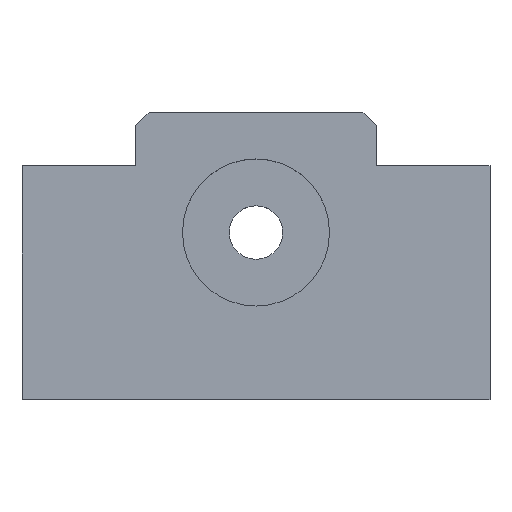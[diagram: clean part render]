
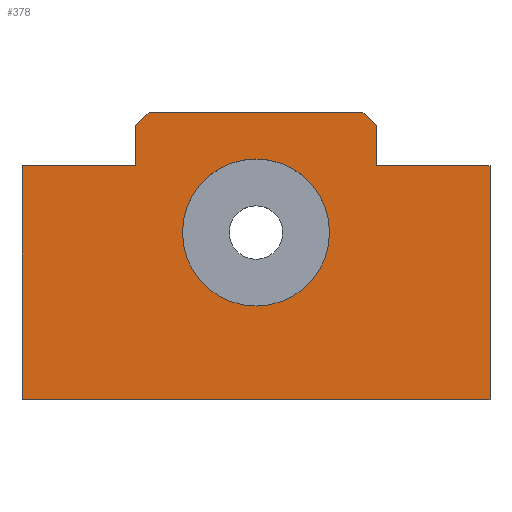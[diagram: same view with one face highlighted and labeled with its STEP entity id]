
A CAD part, top view. The second image highlights one B-rep face of the part: STEP entity #378.
In plain terms, the highlighted planar face has unit normal (0, 0, 1).
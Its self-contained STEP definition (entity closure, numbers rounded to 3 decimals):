
#42=FACE_BOUND($,#113,.T.);
#48=CIRCLE($,#396,11.);
#73=FACE_OUTER_BOUND($,#112,.T.);
#112=EDGE_LOOP($,(#329,#330,#331,#332,#333,#334,#335,#336,#337,#338));
#113=EDGE_LOOP($,(#339));
#114=LINE($,#529,#144);
#120=LINE($,#540,#150);
#129=LINE($,#562,#159);
#132=LINE($,#567,#162);
#135=LINE($,#610,#165);
#137=LINE($,#613,#167);
#138=LINE($,#615,#168);
#139=LINE($,#618,#169);
#141=LINE($,#622,#171);
#143=LINE($,#625,#173);
#144=VECTOR($,#423,2.828);
#150=VECTOR($,#431,6.);
#159=VECTOR($,#446,2.828);
#162=VECTOR($,#451,6.);
#165=VECTOR($,#504,35.);
#167=VECTOR($,#508,17.);
#168=VECTOR($,#511,32.);
#169=VECTOR($,#514,17.);
#171=VECTOR($,#518,35.);
#173=VECTOR($,#522,70.);
#174=VERTEX_POINT($,#527);
#175=VERTEX_POINT($,#528);
#179=VERTEX_POINT($,#538);
#188=VERTEX_POINT($,#560);
#189=VERTEX_POINT($,#561);
#190=VERTEX_POINT($,#566);
#195=VERTEX_POINT($,#581);
#204=VERTEX_POINT($,#607);
#205=VERTEX_POINT($,#609);
#206=VERTEX_POINT($,#617);
#207=VERTEX_POINT($,#621);
#208=EDGE_CURVE($,#174,#175,#114,.T.);
#214=EDGE_CURVE($,#174,#179,#120,.T.);
#224=EDGE_CURVE($,#188,#189,#129,.T.);
#227=EDGE_CURVE($,#190,#189,#132,.T.);
#233=EDGE_CURVE($,#195,#195,#48,.T.);
#243=EDGE_CURVE($,#205,#204,#135,.T.);
#245=EDGE_CURVE($,#179,#205,#137,.T.);
#246=EDGE_CURVE($,#188,#175,#138,.T.);
#247=EDGE_CURVE($,#206,#190,#139,.T.);
#249=EDGE_CURVE($,#207,#206,#141,.T.);
#251=EDGE_CURVE($,#204,#207,#143,.T.);
#329=ORIENTED_EDGE($,*,*,#208,.F.);
#330=ORIENTED_EDGE($,*,*,#214,.T.);
#331=ORIENTED_EDGE($,*,*,#245,.T.);
#332=ORIENTED_EDGE($,*,*,#243,.T.);
#333=ORIENTED_EDGE($,*,*,#251,.T.);
#334=ORIENTED_EDGE($,*,*,#249,.T.);
#335=ORIENTED_EDGE($,*,*,#247,.T.);
#336=ORIENTED_EDGE($,*,*,#227,.T.);
#337=ORIENTED_EDGE($,*,*,#224,.F.);
#338=ORIENTED_EDGE($,*,*,#246,.T.);
#339=ORIENTED_EDGE($,*,*,#233,.T.);
#355=PLANE($,#418);
#378=ADVANCED_FACE($,(#73,#42),#355,.T.);
#396=AXIS2_PLACEMENT_3D($,#582,#469,#470);
#418=AXIS2_PLACEMENT_3D($,#626,#523,#524);
#423=DIRECTION($,(0.707,0.707,0.));
#431=DIRECTION($,(0.,-1.,0.));
#446=DIRECTION($,(0.707,-0.707,0.));
#451=DIRECTION($,(0.,1.,0.));
#469=DIRECTION('center_axis',(0.,0.,-1.));
#470=DIRECTION('ref_axis',(-1.,0.,0.));
#504=DIRECTION($,(0.,-1.,0.));
#508=DIRECTION($,(-1.,0.,0.));
#511=DIRECTION($,(-1.,0.,0.));
#514=DIRECTION($,(-1.,0.,0.));
#518=DIRECTION($,(0.,1.,0.));
#522=DIRECTION($,(1.,0.,0.));
#523=DIRECTION('center_axis',(0.,0.,1.));
#524=DIRECTION('ref_axis',(1.,0.,0.));
#527=CARTESIAN_POINT('',(17.,41.,20.));
#528=CARTESIAN_POINT('',(19.,43.,20.));
#529=CARTESIAN_POINT($,(16.824,40.824,20.));
#538=CARTESIAN_POINT('',(17.,35.,20.));
#540=CARTESIAN_POINT($,(17.,43.,20.));
#560=CARTESIAN_POINT('',(51.,43.,20.));
#561=CARTESIAN_POINT('',(53.,41.,20.));
#562=CARTESIAN_POINT($,(53.176,40.824,20.));
#566=CARTESIAN_POINT('',(53.,35.,20.));
#567=CARTESIAN_POINT($,(53.,35.,20.));
#581=CARTESIAN_POINT('',(46.,25.,20.));
#582=CARTESIAN_POINT('Origin',(35.,25.,20.));
#607=CARTESIAN_POINT('',(0.,0.,20.));
#609=CARTESIAN_POINT('',(0.,35.,20.));
#610=CARTESIAN_POINT($,(0.,35.,20.));
#613=CARTESIAN_POINT($,(17.,35.,20.));
#615=CARTESIAN_POINT($,(53.,43.,20.));
#617=CARTESIAN_POINT('',(70.,35.,20.));
#618=CARTESIAN_POINT($,(70.,35.,20.));
#621=CARTESIAN_POINT('',(70.,0.,20.));
#622=CARTESIAN_POINT($,(70.,0.,20.));
#625=CARTESIAN_POINT($,(0.,0.,20.));
#626=CARTESIAN_POINT('Origin',(35.,20.296,20.));
